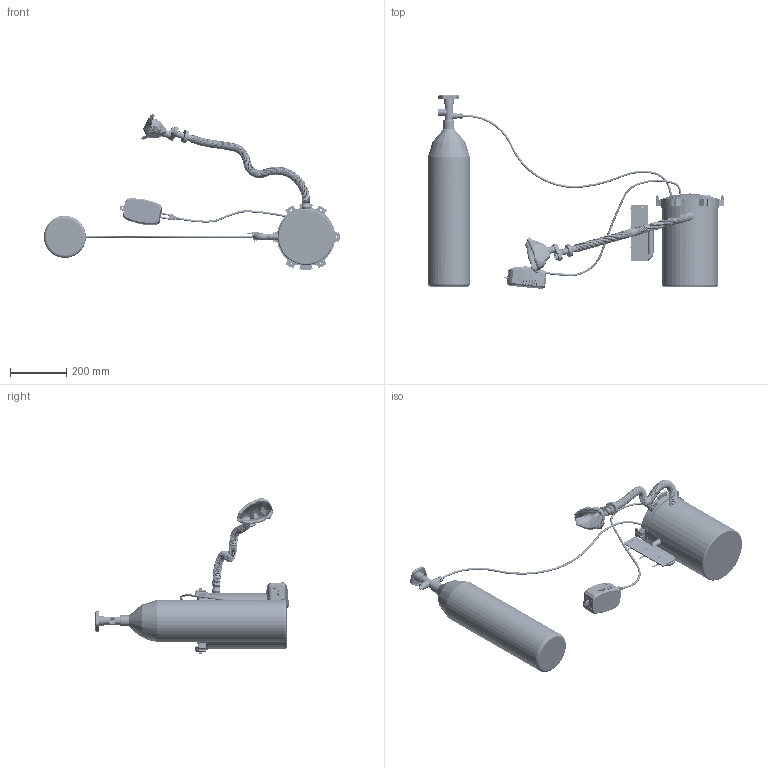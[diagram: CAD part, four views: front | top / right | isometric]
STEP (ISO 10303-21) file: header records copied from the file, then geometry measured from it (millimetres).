
FILE_DESCRIPTION(/* description */ (''),/* implementation_level */ '2;1');
FILE_NAME(/* name */ 'C:\Users\user\Documents\Inventor\Home Ventilator CPAP\Home Ventilator CPAP 02.stp',/* time_stamp */ '2020-04-01T18:29:31+02:00',/* author */ ('user'),/* organization */ (''),/* preprocessor_version */ 'ST-DEVELOPER v16.5',/* originating_system */ 'Autodesk Inventor 2017',/* authorisation */ '');
FILE_SCHEMA (('AUTOMOTIVE_DESIGN { 1 0 10303 214 3 1 1 }'));
Length unit declared in the file: millimetre
Products named in the file (25): Home Ventilator CPAP 02; Water container 02; Rubber ring; Cap for container 02; Pipe conector; Toggle; Shaft; Oxygen hose; Oxygen bottle; Rib hose for mask; hose for mask; Ring for hose; Inline valve; air pump aquarium; Mask; medical mask; BODY VALVE; flap; BODY VALVE 1; Air pump hose; Water in pot; Assem1; Ruler; Tube; ziptie
Assembly tree (216 placements, depth 3):
  Home Ventilator CPAP 02
    Water container 02
    Rubber ring
    Cap for container 02
    Pipe conector  x2
    Toggle  x6
    Shaft  x6
    Oxygen hose
    Oxygen bottle
    Rib hose for mask
      hose for mask
      Ring for hose  x180
    Inline valve
    air pump aquarium
    Mask
      medical mask
      BODY VALVE
      flap
      BODY VALVE 1
    Air pump hose
    Water in pot
    Assem1
      Ruler
      Tube
      ziptie  x3
Bounding box: 1055.77 x 688.67 x 554.33 mm (x, y, z)
Volume: 4756092.6 mm3; surface area: 1817848.8 mm2
Topology: 214 solids, 329 shells, 3682 faces, 7648 edges, 4966 vertices
Faces by surface type: plane 1452, cone 736, cylinder 719, torus 458, bspline 275, sphere 42
Full cylindrical faces by diameter (mm): 3 x2, 4 x30, 4.4 x2, 5 x2, 6 x10, 7 x1, 7.2 x2, 7.25 x2, 8 x9, 9.6 x1, 11 x1, 12.7 x3, 12.93 x2, 13 x6, 17 x3, 17.292 x1, 19.718 x2, 20 x3, 20.562 x1, 22 x1, 22.118 x2, 23 x3, 23.292 x1, 23.4 x180, 23.422 x180, 24.824 x1, 25.4 x5, 26 x1, 28 x1, 29 x1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
Entity records: 83717 total; most frequent: CARTESIAN_POINT 50644, ORIENTED_EDGE 6114, DIRECTION 5978, EDGE_CURVE 3355, VERTEX_POINT 2475, AXIS2_PLACEMENT_3D 2103, LINE 1772, VECTOR 1772
